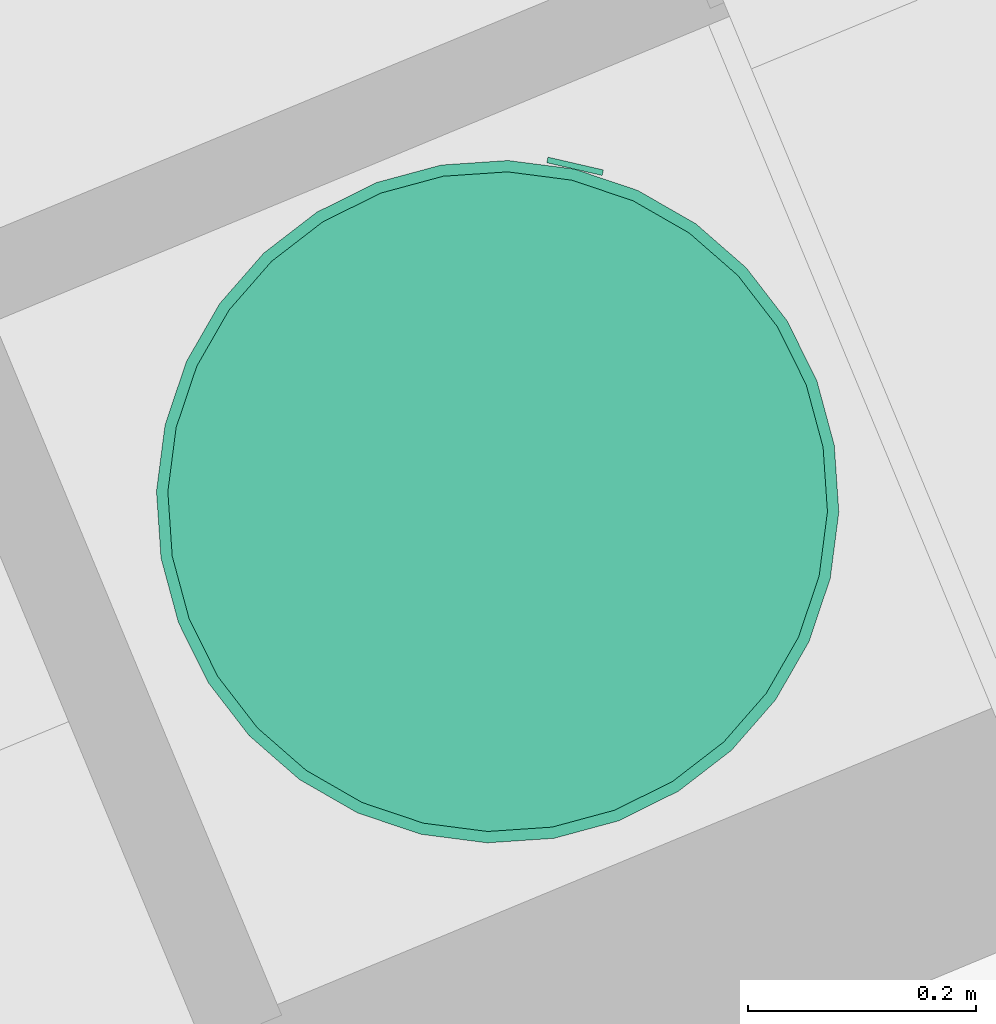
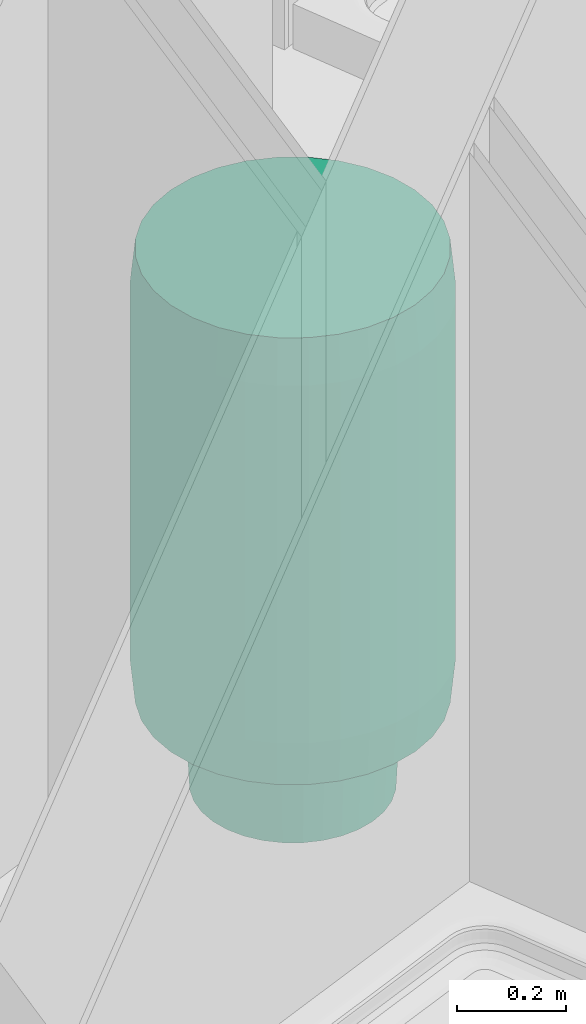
# One storey, part 67 of 90: 1 energy conversion device.
"""IFC2X3 building model written with IfcOpenShell, lengths in metres."""

from ifc_helpers import new_model, entity, si_unit, converted_unit, derived_unit, money_unit, direction, frame, origin_with_axes, place, context, subcontext, project, spatial, open_shell, faceted_brep, surface_model, source, transform, mapped, type_object, element, save


model = new_model("IFC2X3")

# Units and contexts
model_context = context("Model", 3, precision=1e-05, world=origin_with_axes(), true_north=direction((0.0, 1.0)))
body_context = subcontext(model_context, "Body", "Model", "MODEL_VIEW")
ifc_project = project(units=[si_unit("LENGTHUNIT", "METRE"), si_unit("AREAUNIT", "SQUARE_METRE"), si_unit("VOLUMEUNIT", "CUBIC_METRE"), converted_unit("PLANEANGLEUNIT", "DEGREE", entity("IfcPlaneAngleMeasure", 0.0174532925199), si_unit("PLANEANGLEUNIT", "RADIAN"), dimensions=[0, 0, 0, 0, 0, 0, 0]), si_unit("SOLIDANGLEUNIT", "STERADIAN"), money_unit("EUR"), converted_unit("TIMEUNIT", "Year", entity("IfcTimeMeasure", 31556926.0), si_unit("TIMEUNIT", "SECOND"), dimensions=[0, 0, 1, 0, 0, 0, 0]), si_unit("MASSUNIT", "GRAM", prefix="KILO"), si_unit("THERMODYNAMICTEMPERATUREUNIT", "DEGREE_CELSIUS"), si_unit("LUMINOUSINTENSITYUNIT", "LUMEN"), si_unit("ENERGYUNIT", "JOULE", prefix="MEGA"), derived_unit("THERMALCONDUCTANCEUNIT", [(si_unit("POWERUNIT", "WATT"), 1), (si_unit("LENGTHUNIT", "METRE"), -1), (si_unit("THERMODYNAMICTEMPERATUREUNIT", "KELVIN"), -1)]), derived_unit("SPECIFICHEATCAPACITYUNIT", [(si_unit("ENERGYUNIT", "JOULE"), 1), (si_unit("MASSUNIT", "GRAM", prefix="KILO"), -1), (si_unit("THERMODYNAMICTEMPERATUREUNIT", "KELVIN"), -1)]), derived_unit("MASSDENSITYUNIT", [(si_unit("MASSUNIT", "GRAM", prefix="KILO"), 1), (si_unit("VOLUMEUNIT", "CUBIC_METRE"), -1)])], contexts=[model_context])

# Site, building, storey
site_placement = place(None, origin_with_axes())
site = spatial("IfcSite", under=ifc_project, at=site_placement, Name="Site", CompositionType="ELEMENT")
building_placement = place(site_placement, origin_with_axes())
building = spatial("IfcBuilding", under=site, at=building_placement, Name="Bâtiment", CompositionType="ELEMENT")
storey_placement = place(building_placement, frame((0.0, 0.0, 2.72), z_axis=(0.0, 0.0, 1.0), x_axis=(1.0, 0.0, 0.0)))
storey = spatial("IfcBuildingStorey", under=building, at=storey_placement, Name="R+1", CompositionType="ELEMENT", Elevation=2.72)

# Energy conversion device
heat_exchanger_type = type_object("IfcHeatExchangerType", Name="Chauffe-eau électrique 23", PredefinedType="SHELLANDTUBE")
shared_shape = source(origin_with_axes(), body_context, "Body", "SurfaceModel", [
    surface_model("IfcShellBasedSurfaceModel", [(-0.245, -0.0135, 0.2), (-0.245, -0.0135, 0.18), (-0.241505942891, -0.0130399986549, 0.18), (-0.241505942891, -0.0130399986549, 0.2), (-0.248494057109, -0.0130399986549, 0.2), (-0.248494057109, -0.0130399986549, 0.18), (-0.23825, -0.0116913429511, 0.18), (-0.23825, -0.0116913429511, 0.2), (-0.25175, -0.0116913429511, 0.2), (-0.25175, -0.0116913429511, 0.18), (-0.235454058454, -0.00954594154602, 0.18), (-0.235454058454, -0.00954594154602, 0.2), (-0.254545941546, -0.00954594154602, 0.2), (-0.254545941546, -0.00954594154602, 0.18), (-0.233308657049, -0.00675, 0.18), (-0.233308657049, -0.00675, 0.2), (-0.256691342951, -0.00675, 0.2), (-0.256691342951, -0.00675, 0.18), (-0.231960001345, -0.00349405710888, 0.18), (-0.231960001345, -0.00349405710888, 0.2), (-0.258039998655, -0.00349405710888, 0.2), (-0.258039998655, -0.00349405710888, 0.18), (-0.2315, 0.0, 0.18), (-0.2315, 0.0, 0.2), (-0.2585, 0.0, 0.2), (-0.2585, 0.0, 0.18), (-0.231960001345, 0.00349405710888, 0.18), (-0.231960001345, 0.00349405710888, 0.2), (-0.258039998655, 0.00349405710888, 0.2), (-0.258039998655, 0.00349405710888, 0.18), (-0.233308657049, 0.00675, 0.18), (-0.233308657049, 0.00675, 0.2), (-0.256691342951, 0.00675, 0.2), (-0.256691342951, 0.00675, 0.18), (-0.235454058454, 0.00954594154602, 0.18), (-0.235454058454, 0.00954594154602, 0.2), (-0.254545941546, 0.00954594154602, 0.2), (-0.254545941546, 0.00954594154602, 0.18), (-0.23825, 0.0116913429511, 0.18), (-0.23825, 0.0116913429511, 0.2), (-0.25175, 0.0116913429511, 0.2), (-0.25175, 0.0116913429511, 0.18), (-0.241505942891, 0.0130399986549, 0.18), (-0.241505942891, 0.0130399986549, 0.2), (-0.248494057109, 0.0130399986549, 0.2), (-0.248494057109, 0.0130399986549, 0.18), (-0.245, 0.0135, 0.18), (-0.245, 0.0135, 0.2)], [open_shell([[[0, 1, 2, 3]], [[4, 5, 1, 0]], [[3, 2, 6, 7]], [[8, 9, 5, 4]], [[7, 6, 10, 11]], [[12, 13, 9, 8]], [[11, 10, 14, 15]], [[16, 17, 13, 12]], [[15, 14, 18, 19]], [[20, 21, 17, 16]], [[19, 18, 22, 23]], [[24, 25, 21, 20]], [[23, 22, 26, 27]], [[28, 29, 25, 24]], [[27, 26, 30, 31]], [[32, 33, 29, 28]], [[31, 30, 34, 35]], [[36, 37, 33, 32]], [[35, 34, 38, 39]], [[40, 41, 37, 36]], [[39, 38, 42, 43]], [[44, 45, 41, 40]], [[43, 42, 46, 47]], [[47, 46, 45, 44]]])]),
    surface_model("IfcShellBasedSurfaceModel", [(0.245, -0.0135, 0.2), (0.245, -0.0135, 0.18), (0.248494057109, -0.0130399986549, 0.18), (0.248494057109, -0.0130399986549, 0.2), (0.241505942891, -0.0130399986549, 0.2), (0.241505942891, -0.0130399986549, 0.18), (0.25175, -0.0116913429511, 0.18), (0.25175, -0.0116913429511, 0.2), (0.23825, -0.0116913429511, 0.2), (0.23825, -0.0116913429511, 0.18), (0.254545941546, -0.00954594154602, 0.18), (0.254545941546, -0.00954594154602, 0.2), (0.235454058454, -0.00954594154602, 0.2), (0.235454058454, -0.00954594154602, 0.18), (0.256691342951, -0.00675, 0.18), (0.256691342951, -0.00675, 0.2), (0.233308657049, -0.00675, 0.2), (0.233308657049, -0.00675, 0.18), (0.258039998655, -0.00349405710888, 0.18), (0.258039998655, -0.00349405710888, 0.2), (0.231960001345, -0.00349405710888, 0.2), (0.231960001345, -0.00349405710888, 0.18), (0.2585, 0.0, 0.18), (0.2585, 0.0, 0.2), (0.2315, 0.0, 0.2), (0.2315, 0.0, 0.18), (0.258039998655, 0.00349405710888, 0.18), (0.258039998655, 0.00349405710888, 0.2), (0.231960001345, 0.00349405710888, 0.2), (0.231960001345, 0.00349405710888, 0.18), (0.256691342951, 0.00675, 0.18), (0.256691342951, 0.00675, 0.2), (0.233308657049, 0.00675, 0.2), (0.233308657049, 0.00675, 0.18), (0.254545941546, 0.00954594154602, 0.18), (0.254545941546, 0.00954594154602, 0.2), (0.235454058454, 0.00954594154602, 0.2), (0.235454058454, 0.00954594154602, 0.18), (0.25175, 0.0116913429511, 0.18), (0.25175, 0.0116913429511, 0.2), (0.23825, 0.0116913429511, 0.2), (0.23825, 0.0116913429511, 0.18), (0.248494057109, 0.0130399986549, 0.18), (0.248494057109, 0.0130399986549, 0.2), (0.241505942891, 0.0130399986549, 0.2), (0.241505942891, 0.0130399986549, 0.18), (0.245, 0.0135, 0.18), (0.245, 0.0135, 0.2)], [open_shell([[[0, 1, 2, 3]], [[4, 5, 1, 0]], [[3, 2, 6, 7]], [[8, 9, 5, 4]], [[7, 6, 10, 11]], [[12, 13, 9, 8]], [[11, 10, 14, 15]], [[16, 17, 13, 12]], [[15, 14, 18, 19]], [[20, 21, 17, 16]], [[19, 18, 22, 23]], [[24, 25, 21, 20]], [[23, 22, 26, 27]], [[28, 29, 25, 24]], [[27, 26, 30, 31]], [[32, 33, 29, 28]], [[31, 30, 34, 35]], [[36, 37, 33, 32]], [[35, 34, 38, 39]], [[40, 41, 37, 36]], [[39, 38, 42, 43]], [[44, 45, 41, 40]], [[43, 42, 46, 47]], [[47, 46, 45, 44]]])]),
    faceted_brep([(-0.025, -0.305, 0.4), (-0.025, -0.3, 0.4), (0.025, -0.3, 0.4), (0.025, -0.305, 0.4), (-0.025, -0.305, 0.42), (-0.025, -0.3, 0.42), (0.025, -0.3, 0.42), (0.025, -0.305, 0.42)], [[[0, 1, 2, 3]], [[0, 4, 5, 1]], [[1, 5, 6, 2]], [[2, 6, 7, 3]], [[3, 7, 4, 0]], [[7, 6, 5, 4]]]),
    faceted_brep([(0.0222836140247, -0.16, 0.088519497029), (0.02, -0.16, 0.1), (0.0222836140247, -0.16, 0.111480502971), (0.0287867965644, -0.16, 0.121213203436), (0.038519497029, -0.16, 0.127716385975), (0.05, -0.16, 0.13), (0.061480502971, -0.16, 0.127716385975), (0.0712132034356, -0.16, 0.121213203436), (0.0777163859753, -0.16, 0.111480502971), (0.08, -0.16, 0.1), (0.0777163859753, -0.16, 0.088519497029), (0.0712132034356, -0.16, 0.0787867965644), (0.061480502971, -0.16, 0.0722836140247), (0.05, -0.16, 0.07), (0.038519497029, -0.16, 0.0722836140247), (0.0287867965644, -0.16, 0.0787867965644), (0.0222836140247, -0.175, 0.088519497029), (0.02, -0.175, 0.1), (0.0222836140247, -0.175, 0.111480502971), (0.0287867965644, -0.175, 0.121213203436), (0.038519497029, -0.175, 0.127716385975), (0.05, -0.175, 0.13), (0.061480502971, -0.175, 0.127716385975), (0.0712132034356, -0.175, 0.121213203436), (0.0777163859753, -0.175, 0.111480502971), (0.08, -0.175, 0.1), (0.0777163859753, -0.175, 0.088519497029), (0.0712132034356, -0.175, 0.0787867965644), (0.061480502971, -0.175, 0.0722836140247), (0.05, -0.175, 0.07), (0.038519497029, -0.175, 0.0722836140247), (0.0287867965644, -0.175, 0.0787867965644)], [[[0, 1, 2, 3, 4, 5, 6, 7, 8, 9, 10, 11, 12, 13, 14, 15]], [[0, 16, 17, 1]], [[1, 17, 18, 2]], [[2, 18, 19, 3]], [[3, 19, 20, 4]], [[4, 20, 21, 5]], [[5, 21, 22, 6]], [[6, 22, 23, 7]], [[7, 23, 24, 8]], [[8, 24, 25, 9]], [[9, 25, 26, 10]], [[10, 26, 27, 11]], [[11, 27, 28, 12]], [[12, 28, 29, 13]], [[13, 29, 30, 14]], [[14, 30, 31, 15]], [[15, 31, 16, 0]], [[16, 31, 30, 29, 28, 27, 26, 25, 24, 23, 22, 21, 20, 19, 18, 17]]]),
    faceted_brep([(-0.0777163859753, -0.16, 0.088519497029), (-0.08, -0.16, 0.1), (-0.0777163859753, -0.16, 0.111480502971), (-0.0712132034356, -0.16, 0.121213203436), (-0.061480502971, -0.16, 0.127716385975), (-0.05, -0.16, 0.13), (-0.038519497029, -0.16, 0.127716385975), (-0.0287867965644, -0.16, 0.121213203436), (-0.0222836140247, -0.16, 0.111480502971), (-0.02, -0.16, 0.1), (-0.0222836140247, -0.16, 0.088519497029), (-0.0287867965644, -0.16, 0.0787867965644), (-0.038519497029, -0.16, 0.0722836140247), (-0.05, -0.16, 0.07), (-0.061480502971, -0.16, 0.0722836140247), (-0.0712132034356, -0.16, 0.0787867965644), (-0.0777163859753, -0.175, 0.088519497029), (-0.08, -0.175, 0.1), (-0.0777163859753, -0.175, 0.111480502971), (-0.0712132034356, -0.175, 0.121213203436), (-0.061480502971, -0.175, 0.127716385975), (-0.05, -0.175, 0.13), (-0.038519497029, -0.175, 0.127716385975), (-0.0287867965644, -0.175, 0.121213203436), (-0.0222836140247, -0.175, 0.111480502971), (-0.02, -0.175, 0.1), (-0.0222836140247, -0.175, 0.088519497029), (-0.0287867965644, -0.175, 0.0787867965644), (-0.038519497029, -0.175, 0.0722836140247), (-0.05, -0.175, 0.07), (-0.061480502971, -0.175, 0.0722836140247), (-0.0712132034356, -0.175, 0.0787867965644)], [[[0, 1, 2, 3, 4, 5, 6, 7, 8, 9, 10, 11, 12, 13, 14, 15]], [[0, 16, 17, 1]], [[1, 17, 18, 2]], [[2, 18, 19, 3]], [[3, 19, 20, 4]], [[4, 20, 21, 5]], [[5, 21, 22, 6]], [[6, 22, 23, 7]], [[7, 23, 24, 8]], [[8, 24, 25, 9]], [[9, 25, 26, 10]], [[10, 26, 27, 11]], [[11, 27, 28, 12]], [[12, 28, 29, 13]], [[13, 29, 30, 14]], [[14, 30, 31, 15]], [[15, 31, 16, 0]], [[16, 31, 30, 29, 28, 27, 26, 25, 24, 23, 22, 21, 20, 19, 18, 17]]]),
    faceted_brep([(-0.186349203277, -0.0370671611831, 0.0), (-0.196157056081, -0.0390180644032, 0.2), (-0.2, 0.0, 0.2), (-0.19, 0.0, 0.0), (-0.175537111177, -0.0727098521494, 0.0), (-0.184775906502, -0.076536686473, 0.2), (-0.166293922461, -0.111114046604, 0.2), (-0.141421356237, -0.141421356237, 0.2), (-0.118783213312, -0.16, 0.2), (0.118783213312, -0.16, 0.2), (0.141421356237, -0.141421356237, 0.2), (0.166293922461, -0.111114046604, 0.2), (0.184775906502, -0.076536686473, 0.2), (0.196157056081, -0.0390180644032, 0.2), (0.2, 0.0, 0.2), (0.196157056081, 0.0390180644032, 0.2), (0.184775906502, 0.076536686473, 0.2), (0.166293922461, 0.111114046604, 0.2), (0.141421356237, 0.141421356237, 0.2), (0.111114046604, 0.166293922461, 0.2), (0.076536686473, 0.184775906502, 0.2), (0.0390180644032, 0.196157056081, 0.2), (0.0, 0.2, 0.2), (-0.0390180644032, 0.196157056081, 0.2), (-0.076536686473, 0.184775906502, 0.2), (-0.111114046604, 0.166293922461, 0.2), (-0.141421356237, 0.141421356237, 0.2), (-0.166293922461, 0.111114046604, 0.2), (-0.184775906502, 0.076536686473, 0.2), (-0.196157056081, 0.0390180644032, 0.2), (-0.186349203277, 0.0370671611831, 0.0), (-0.175537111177, 0.0727098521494, 0.0), (-0.157979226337, 0.105558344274, 0.0), (-0.134350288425, 0.134350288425, 0.0), (-0.105558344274, 0.157979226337, 0.0), (-0.0727098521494, 0.175537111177, 0.0), (-0.0370671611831, 0.186349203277, 0.0), (0.0, 0.19, 0.0), (0.0370671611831, 0.186349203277, 0.0), (0.0727098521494, 0.175537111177, 0.0), (0.105558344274, 0.157979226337, 0.0), (0.134350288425, 0.134350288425, 0.0), (0.157979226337, 0.105558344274, 0.0), (0.175537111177, 0.0727098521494, 0.0), (0.186349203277, 0.0370671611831, 0.0), (0.19, 0.0, 0.0), (0.186349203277, -0.0370671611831, 0.0), (0.175537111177, -0.0727098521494, 0.0), (0.157979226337, -0.105558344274, 0.0), (0.134350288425, -0.134350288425, 0.0), (0.105558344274, -0.157979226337, 0.0), (0.101777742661, -0.16, 0.0), (-0.101777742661, -0.16, 0.0), (-0.105558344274, -0.157979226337, 0.0), (-0.134350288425, -0.134350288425, 0.0), (-0.157979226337, -0.105558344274, 0.0), (-0.106908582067, -0.16, 0.0486072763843), (0.106908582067, -0.16, 0.0486072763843)], [[[0, 1, 2, 3]], [[4, 5, 1, 0]], [[1, 5, 6, 7, 8, 9, 10, 11, 12, 13, 14, 15, 16, 17, 18, 19, 20, 21, 22, 23, 24, 25, 26, 27, 28, 29, 2]], [[3, 2, 29, 30]], [[0, 3, 30, 31, 32, 33, 34, 35, 36, 37, 38, 39, 40, 41, 42, 43, 44, 45, 46, 47, 48, 49, 50, 51, 52, 53, 54, 55, 4]], [[55, 6, 5, 4]], [[54, 7, 6, 55]], [[53, 56, 8, 7, 54]], [[51, 57, 9, 8, 56, 52]], [[49, 10, 9, 57, 50]], [[48, 11, 10, 49]], [[47, 12, 11, 48]], [[46, 13, 12, 47]], [[45, 14, 13, 46]], [[44, 15, 14, 45]], [[43, 16, 15, 44]], [[42, 17, 16, 43]], [[41, 18, 17, 42]], [[40, 19, 18, 41]], [[39, 20, 19, 40]], [[38, 21, 20, 39]], [[37, 22, 21, 38]], [[36, 23, 22, 37]], [[35, 24, 23, 36]], [[34, 25, 24, 35]], [[33, 26, 25, 34]], [[32, 27, 26, 33]], [[31, 28, 27, 32]], [[30, 29, 28, 31]], [[50, 57, 51]], [[52, 56, 53]]]),
    faceted_brep([(-0.284427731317, -0.0565761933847, 0.2), (-0.294235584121, -0.0585270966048, 0.3), (-0.3, 0.0, 0.3), (-0.29, 0.0, 0.2), (-0.267925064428, -0.110978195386, 0.2), (-0.277163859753, -0.11480502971, 0.3), (-0.249440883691, -0.166671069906, 0.3), (-0.212132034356, -0.212132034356, 0.3), (-0.166671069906, -0.249440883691, 0.3), (-0.11480502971, -0.277163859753, 0.3), (-0.0585270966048, -0.294235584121, 0.3), (0.0, -0.3, 0.3), (0.0585270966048, -0.294235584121, 0.3), (0.11480502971, -0.277163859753, 0.3), (0.166671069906, -0.249440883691, 0.3), (0.212132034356, -0.212132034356, 0.3), (0.249440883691, -0.166671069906, 0.3), (0.277163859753, -0.11480502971, 0.3), (0.294235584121, -0.0585270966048, 0.3), (0.3, 0.0, 0.3), (0.294235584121, 0.0585270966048, 0.3), (0.277163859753, 0.11480502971, 0.3), (0.249440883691, 0.166671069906, 0.3), (0.212132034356, 0.212132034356, 0.3), (0.166671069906, 0.249440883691, 0.3), (0.11480502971, 0.277163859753, 0.3), (0.0585270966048, 0.294235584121, 0.3), (0.0, 0.3, 0.3), (-0.0585270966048, 0.294235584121, 0.3), (-0.11480502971, 0.277163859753, 0.3), (-0.166671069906, 0.249440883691, 0.3), (-0.212132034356, 0.212132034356, 0.3), (-0.249440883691, 0.166671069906, 0.3), (-0.277163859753, 0.11480502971, 0.3), (-0.294235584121, 0.0585270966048, 0.3), (-0.284427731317, 0.0565761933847, 0.2), (-0.267925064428, 0.110978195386, 0.2), (-0.241126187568, 0.161115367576, 0.2), (-0.205060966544, 0.205060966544, 0.2), (-0.161115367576, 0.241126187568, 0.2), (-0.110978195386, 0.267925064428, 0.2), (-0.0565761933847, 0.284427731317, 0.2), (0.0, 0.29, 0.2), (0.0565761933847, 0.284427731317, 0.2), (0.110978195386, 0.267925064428, 0.2), (0.161115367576, 0.241126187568, 0.2), (0.205060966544, 0.205060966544, 0.2), (0.241126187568, 0.161115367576, 0.2), (0.267925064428, 0.110978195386, 0.2), (0.284427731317, 0.0565761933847, 0.2), (0.29, 0.0, 0.2), (0.284427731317, -0.0565761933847, 0.2), (0.267925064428, -0.110978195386, 0.2), (0.241126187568, -0.161115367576, 0.2), (0.205060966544, -0.205060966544, 0.2), (0.161115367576, -0.241126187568, 0.2), (0.110978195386, -0.267925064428, 0.2), (0.0565761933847, -0.284427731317, 0.2), (0.0, -0.29, 0.2), (-0.0565761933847, -0.284427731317, 0.2), (-0.110978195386, -0.267925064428, 0.2), (-0.161115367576, -0.241126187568, 0.2), (-0.205060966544, -0.205060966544, 0.2), (-0.241126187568, -0.161115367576, 0.2)], [[[0, 1, 2, 3]], [[4, 5, 1, 0]], [[1, 5, 6, 7, 8, 9, 10, 11, 12, 13, 14, 15, 16, 17, 18, 19, 20, 21, 22, 23, 24, 25, 26, 27, 28, 29, 30, 31, 32, 33, 34, 2]], [[3, 2, 34, 35]], [[0, 3, 35, 36, 37, 38, 39, 40, 41, 42, 43, 44, 45, 46, 47, 48, 49, 50, 51, 52, 53, 54, 55, 56, 57, 58, 59, 60, 61, 62, 63, 4]], [[63, 6, 5, 4]], [[62, 7, 6, 63]], [[61, 8, 7, 62]], [[60, 9, 8, 61]], [[59, 10, 9, 60]], [[58, 11, 10, 59]], [[57, 12, 11, 58]], [[56, 13, 12, 57]], [[55, 14, 13, 56]], [[54, 15, 14, 55]], [[53, 16, 15, 54]], [[52, 17, 16, 53]], [[51, 18, 17, 52]], [[50, 19, 18, 51]], [[49, 20, 19, 50]], [[48, 21, 20, 49]], [[47, 22, 21, 48]], [[46, 23, 22, 47]], [[45, 24, 23, 46]], [[44, 25, 24, 45]], [[43, 26, 25, 44]], [[42, 27, 26, 43]], [[41, 28, 27, 42]], [[40, 29, 28, 41]], [[39, 30, 29, 40]], [[38, 31, 30, 39]], [[37, 32, 31, 38]], [[36, 33, 32, 37]], [[35, 34, 33, 36]]]),
    faceted_brep([(-0.294235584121, -0.0585270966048, 0.3), (-0.3, 0.0, 0.3), (-0.294235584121, 0.0585270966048, 0.3), (-0.277163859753, 0.11480502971, 0.3), (-0.249440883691, 0.166671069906, 0.3), (-0.212132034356, 0.212132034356, 0.3), (-0.166671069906, 0.249440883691, 0.3), (-0.11480502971, 0.277163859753, 0.3), (-0.0585270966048, 0.294235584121, 0.3), (0.0, 0.3, 0.3), (0.0585270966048, 0.294235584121, 0.3), (0.11480502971, 0.277163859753, 0.3), (0.166671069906, 0.249440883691, 0.3), (0.212132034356, 0.212132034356, 0.3), (0.249440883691, 0.166671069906, 0.3), (0.277163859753, 0.11480502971, 0.3), (0.294235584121, 0.0585270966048, 0.3), (0.3, 0.0, 0.3), (0.294235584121, -0.0585270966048, 0.3), (0.277163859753, -0.11480502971, 0.3), (0.249440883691, -0.166671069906, 0.3), (0.212132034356, -0.212132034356, 0.3), (0.166671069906, -0.249440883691, 0.3), (0.11480502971, -0.277163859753, 0.3), (0.0585270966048, -0.294235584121, 0.3), (0.0, -0.3, 0.3), (-0.0585270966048, -0.294235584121, 0.3), (-0.11480502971, -0.277163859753, 0.3), (-0.166671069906, -0.249440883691, 0.3), (-0.212132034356, -0.212132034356, 0.3), (-0.249440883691, -0.166671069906, 0.3), (-0.277163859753, -0.11480502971, 0.3), (-0.294235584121, -0.0585270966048, 1.1), (-0.3, 0.0, 1.1), (-0.294235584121, 0.0585270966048, 1.1), (-0.277163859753, 0.11480502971, 1.1), (-0.249440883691, 0.166671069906, 1.1), (-0.212132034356, 0.212132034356, 1.1), (-0.166671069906, 0.249440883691, 1.1), (-0.11480502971, 0.277163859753, 1.1), (-0.0585270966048, 0.294235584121, 1.1), (0.0, 0.3, 1.1), (0.0585270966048, 0.294235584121, 1.1), (0.11480502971, 0.277163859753, 1.1), (0.166671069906, 0.249440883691, 1.1), (0.212132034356, 0.212132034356, 1.1), (0.249440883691, 0.166671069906, 1.1), (0.277163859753, 0.11480502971, 1.1), (0.294235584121, 0.0585270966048, 1.1), (0.3, 0.0, 1.1), (0.294235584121, -0.0585270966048, 1.1), (0.277163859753, -0.11480502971, 1.1), (0.249440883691, -0.166671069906, 1.1), (0.212132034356, -0.212132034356, 1.1), (0.166671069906, -0.249440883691, 1.1), (0.11480502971, -0.277163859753, 1.1), (0.0585270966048, -0.294235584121, 1.1), (0.0, -0.3, 1.1), (-0.0585270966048, -0.294235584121, 1.1), (-0.11480502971, -0.277163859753, 1.1), (-0.166671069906, -0.249440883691, 1.1), (-0.212132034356, -0.212132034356, 1.1), (-0.249440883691, -0.166671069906, 1.1), (-0.277163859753, -0.11480502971, 1.1)], [[[0, 1, 2, 3, 4, 5, 6, 7, 8, 9, 10, 11, 12, 13, 14, 15, 16, 17, 18, 19, 20, 21, 22, 23, 24, 25, 26, 27, 28, 29, 30, 31]], [[0, 32, 33, 1]], [[1, 33, 34, 2]], [[2, 34, 35, 3]], [[3, 35, 36, 4]], [[4, 36, 37, 5]], [[5, 37, 38, 6]], [[6, 38, 39, 7]], [[7, 39, 40, 8]], [[8, 40, 41, 9]], [[9, 41, 42, 10]], [[10, 42, 43, 11]], [[11, 43, 44, 12]], [[12, 44, 45, 13]], [[13, 45, 46, 14]], [[14, 46, 47, 15]], [[15, 47, 48, 16]], [[16, 48, 49, 17]], [[17, 49, 50, 18]], [[18, 50, 51, 19]], [[19, 51, 52, 20]], [[20, 52, 53, 21]], [[21, 53, 54, 22]], [[22, 54, 55, 23]], [[23, 55, 56, 24]], [[24, 56, 57, 25]], [[25, 57, 58, 26]], [[26, 58, 59, 27]], [[27, 59, 60, 28]], [[28, 60, 61, 29]], [[29, 61, 62, 30]], [[30, 62, 63, 31]], [[31, 63, 32, 0]], [[32, 63, 62, 61, 60, 59, 58, 57, 56, 55, 54, 53, 52, 51, 50, 49, 48, 47, 46, 45, 44, 43, 42, 41, 40, 39, 38, 37, 36, 35, 34, 33]]]),
    faceted_brep([(-0.294235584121, -0.0585270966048, 1.1), (-0.284427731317, -0.0565761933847, 1.2), (-0.29, 0.0, 1.2), (-0.3, 0.0, 1.1), (-0.277163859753, -0.11480502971, 1.1), (-0.267925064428, -0.110978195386, 1.2), (-0.241126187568, -0.161115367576, 1.2), (-0.205060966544, -0.205060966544, 1.2), (-0.161115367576, -0.241126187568, 1.2), (-0.110978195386, -0.267925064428, 1.2), (-0.0565761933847, -0.284427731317, 1.2), (0.0, -0.29, 1.2), (0.0565761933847, -0.284427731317, 1.2), (0.110978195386, -0.267925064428, 1.2), (0.161115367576, -0.241126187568, 1.2), (0.205060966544, -0.205060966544, 1.2), (0.241126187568, -0.161115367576, 1.2), (0.267925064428, -0.110978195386, 1.2), (0.284427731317, -0.0565761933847, 1.2), (0.29, 0.0, 1.2), (0.284427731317, 0.0565761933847, 1.2), (0.267925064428, 0.110978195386, 1.2), (0.241126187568, 0.161115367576, 1.2), (0.205060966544, 0.205060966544, 1.2), (0.161115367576, 0.241126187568, 1.2), (0.110978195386, 0.267925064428, 1.2), (0.0565761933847, 0.284427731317, 1.2), (0.0, 0.29, 1.2), (-0.0565761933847, 0.284427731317, 1.2), (-0.110978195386, 0.267925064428, 1.2), (-0.161115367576, 0.241126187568, 1.2), (-0.205060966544, 0.205060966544, 1.2), (-0.241126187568, 0.161115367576, 1.2), (-0.267925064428, 0.110978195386, 1.2), (-0.284427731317, 0.0565761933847, 1.2), (-0.294235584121, 0.0585270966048, 1.1), (-0.277163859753, 0.11480502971, 1.1), (-0.249440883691, 0.166671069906, 1.1), (-0.212132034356, 0.212132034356, 1.1), (-0.166671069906, 0.249440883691, 1.1), (-0.11480502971, 0.277163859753, 1.1), (-0.0585270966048, 0.294235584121, 1.1), (0.0, 0.3, 1.1), (0.0585270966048, 0.294235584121, 1.1), (0.11480502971, 0.277163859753, 1.1), (0.166671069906, 0.249440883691, 1.1), (0.212132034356, 0.212132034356, 1.1), (0.249440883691, 0.166671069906, 1.1), (0.277163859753, 0.11480502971, 1.1), (0.294235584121, 0.0585270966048, 1.1), (0.3, 0.0, 1.1), (0.294235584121, -0.0585270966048, 1.1), (0.277163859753, -0.11480502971, 1.1), (0.249440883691, -0.166671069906, 1.1), (0.212132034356, -0.212132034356, 1.1), (0.166671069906, -0.249440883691, 1.1), (0.11480502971, -0.277163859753, 1.1), (0.0585270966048, -0.294235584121, 1.1), (0.0, -0.3, 1.1), (-0.0585270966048, -0.294235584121, 1.1), (-0.11480502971, -0.277163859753, 1.1), (-0.166671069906, -0.249440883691, 1.1), (-0.212132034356, -0.212132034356, 1.1), (-0.249440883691, -0.166671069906, 1.1)], [[[0, 1, 2, 3]], [[4, 5, 1, 0]], [[1, 5, 6, 7, 8, 9, 10, 11, 12, 13, 14, 15, 16, 17, 18, 19, 20, 21, 22, 23, 24, 25, 26, 27, 28, 29, 30, 31, 32, 33, 34, 2]], [[3, 2, 34, 35]], [[0, 3, 35, 36, 37, 38, 39, 40, 41, 42, 43, 44, 45, 46, 47, 48, 49, 50, 51, 52, 53, 54, 55, 56, 57, 58, 59, 60, 61, 62, 63, 4]], [[63, 6, 5, 4]], [[62, 7, 6, 63]], [[61, 8, 7, 62]], [[60, 9, 8, 61]], [[59, 10, 9, 60]], [[58, 11, 10, 59]], [[57, 12, 11, 58]], [[56, 13, 12, 57]], [[55, 14, 13, 56]], [[54, 15, 14, 55]], [[53, 16, 15, 54]], [[52, 17, 16, 53]], [[51, 18, 17, 52]], [[50, 19, 18, 51]], [[49, 20, 19, 50]], [[48, 21, 20, 49]], [[47, 22, 21, 48]], [[46, 23, 22, 47]], [[45, 24, 23, 46]], [[44, 25, 24, 45]], [[43, 26, 25, 44]], [[42, 27, 26, 43]], [[41, 28, 27, 42]], [[40, 29, 28, 41]], [[39, 30, 29, 40]], [[38, 31, 30, 39]], [[37, 32, 31, 38]], [[36, 33, 32, 37]], [[35, 34, 33, 36]]]),
])
energy_conversion_device_placement = place(storey_placement, frame((-30.9562151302, -21.1701581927, 0.0), z_axis=(0.0, 0.0, 1.0), x_axis=(-0.97438734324, 0.224876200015, 0.0)))
element("IfcEnergyConversionDevice", 1, at=energy_conversion_device_placement, inside=storey, type_object=heat_exchanger_type, Name="MOB-002", context=body_context, shape_type="MappedRepresentation", body=[
    mapped(shared_shape, transform((0.0, 0.0, 0.0))),
])

save(model, "model.ifc")
